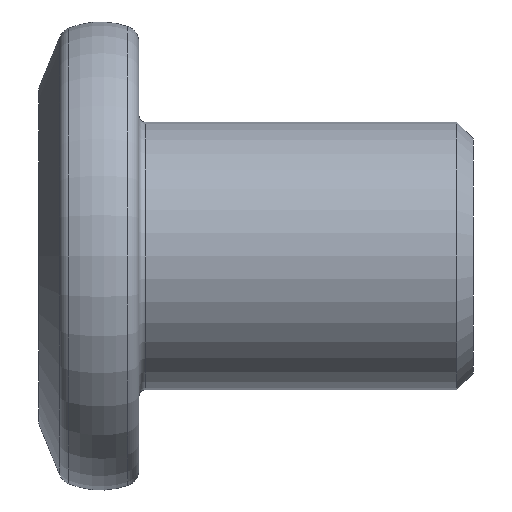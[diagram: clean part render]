
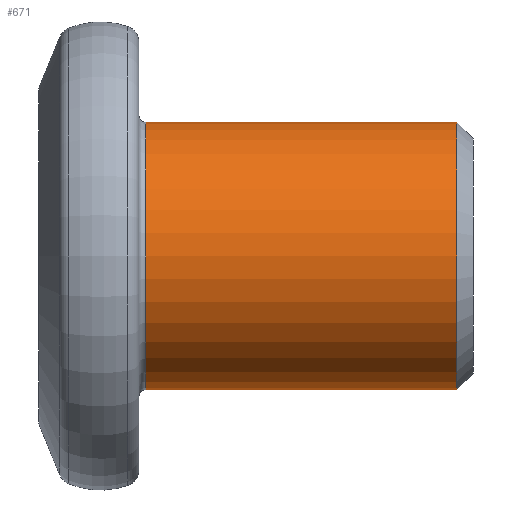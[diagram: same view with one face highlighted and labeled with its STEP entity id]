
A CAD part, front view. The second image highlights one B-rep face of the part: STEP entity #671.
In plain terms, the highlighted cylindrical face has radius 4 mm (diameter 8 mm), a partial arc.
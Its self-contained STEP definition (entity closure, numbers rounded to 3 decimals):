
#13 = DIRECTION ( 'NONE',  ( 0., 0., -1. ) ) ;
#19 = ORIENTED_EDGE ( 'NONE', *, *, #786, .T. ) ;
#94 = LINE ( 'NONE', #280, #722 ) ;
#119 = CARTESIAN_POINT ( 'NONE',  ( 3.2, 0., -4. ) ) ;
#165 = CARTESIAN_POINT ( 'NONE',  ( 12.5, 0., 4. ) ) ;
#220 = DIRECTION ( 'NONE',  ( 1., 0., 0. ) ) ;
#227 = CARTESIAN_POINT ( 'NONE',  ( 12.5, 0., -4. ) ) ;
#232 = DIRECTION ( 'NONE',  ( 0., 0., -1. ) ) ;
#234 = ORIENTED_EDGE ( 'NONE', *, *, #430, .F. ) ;
#272 = AXIS2_PLACEMENT_3D ( 'NONE', #367, #306, #232 ) ;
#280 = CARTESIAN_POINT ( 'NONE',  ( 0., 0., -4. ) ) ;
#293 = VERTEX_POINT ( 'NONE', #119 ) ;
#306 = DIRECTION ( 'NONE',  ( 1., 0., 0. ) ) ;
#310 = CIRCLE ( 'NONE', #826, 4. ) ;
#325 = CIRCLE ( 'NONE', #696, 4. ) ;
#326 = VERTEX_POINT ( 'NONE', #435 ) ;
#367 = CARTESIAN_POINT ( 'NONE',  ( 0., 0., 0. ) ) ;
#399 = DIRECTION ( 'NONE',  ( -1., 0., 0. ) ) ;
#410 = ORIENTED_EDGE ( 'NONE', *, *, #622, .T. ) ;
#430 = EDGE_CURVE ( 'NONE', #326, #592, #534, .T. ) ;
#435 = CARTESIAN_POINT ( 'NONE',  ( 3.2, 0., 4. ) ) ;
#506 = ORIENTED_EDGE ( 'NONE', *, *, #792, .T. ) ;
#523 = DIRECTION ( 'NONE',  ( 0., 0., -1. ) ) ;
#534 = LINE ( 'NONE', #720, #597 ) ;
#559 = EDGE_LOOP ( 'NONE', ( #234, #506, #410, #19 ) ) ;
#575 = DIRECTION ( 'NONE',  ( 1., 0., 0. ) ) ;
#587 = DIRECTION ( 'NONE',  ( 1., 0., 0. ) ) ;
#592 = VERTEX_POINT ( 'NONE', #165 ) ;
#597 = VECTOR ( 'NONE', #575, 1000. ) ;
#617 = VERTEX_POINT ( 'NONE', #227 ) ;
#618 = FACE_OUTER_BOUND ( 'NONE', #559, .T. ) ;
#622 = EDGE_CURVE ( 'NONE', #293, #617, #94, .T. ) ;
#658 = CARTESIAN_POINT ( 'NONE',  ( 3.2, 0., 0. ) ) ;
#671 = ADVANCED_FACE ( 'NONE', ( #618 ), #697, .T. ) ;
#696 = AXIS2_PLACEMENT_3D ( 'NONE', #721, #399, #523 ) ;
#697 = CYLINDRICAL_SURFACE ( 'NONE', #272, 4. ) ;
#720 = CARTESIAN_POINT ( 'NONE',  ( 0., 0., 4. ) ) ;
#721 = CARTESIAN_POINT ( 'NONE',  ( 12.5, 0., 0. ) ) ;
#722 = VECTOR ( 'NONE', #220, 1000. ) ;
#786 = EDGE_CURVE ( 'NONE', #617, #592, #325, .T. ) ;
#792 = EDGE_CURVE ( 'NONE', #326, #293, #310, .T. ) ;
#826 = AXIS2_PLACEMENT_3D ( 'NONE', #658, #587, #13 ) ;
